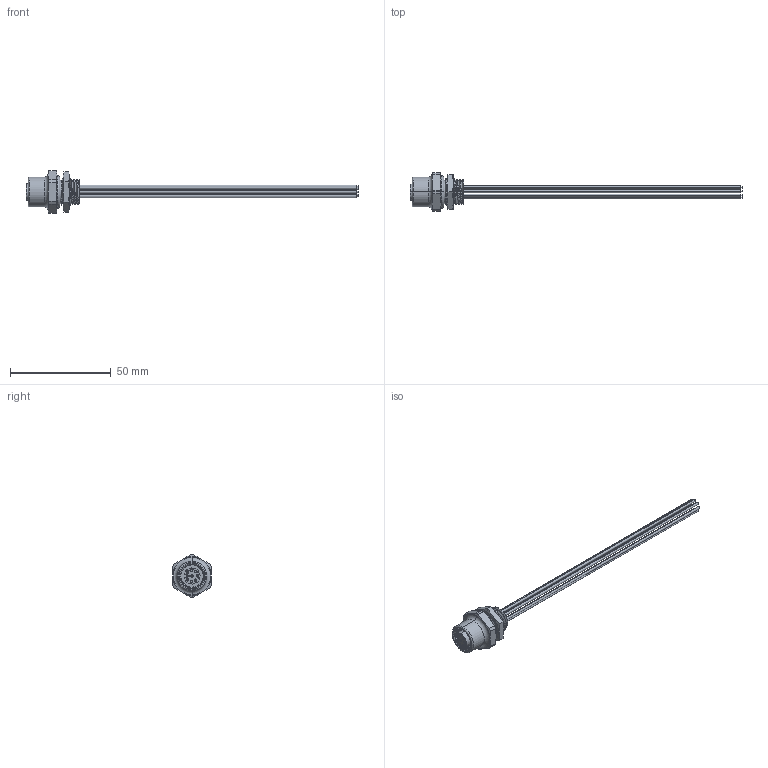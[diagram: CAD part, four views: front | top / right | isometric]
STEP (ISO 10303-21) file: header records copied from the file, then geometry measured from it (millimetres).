
FILE_DESCRIPTION (( 'STEP AP214' ), '1' );
FILE_NAME ('MDC-6FR-4-ZZ.STEP', '2008-04-28T12:32:06', ( ' ' ), ( '' ), 'SwSTEP 2.0', 'SolidWorks 2007', '' );
FILE_SCHEMA (( 'AUTOMOTIVE_DESIGN' ));
Length unit declared in the file: inch
Products named in the file (1): MDC-6FR-4-ZZ
Bounding box: 164.63 x 19.05 x 21.08 mm (x, y, z)
Surface area: 8043.8 mm2 (no closed solid volume)
Topology: 0 solids, 20 shells, 224 faces, 689 edges, 484 vertices
Faces by surface type: cylinder 96, plane 60, cone 35, bspline 23, torus 10
Entity records: 16198 total; most frequent: CARTESIAN_POINT 7548, ORIENTED_EDGE 1126, DIRECTION 1111, EDGE_CURVE 689, VERTEX_POINT 484, AXIS2_PLACEMENT_3D 429, EDGE_LOOP 257, LINE 253
